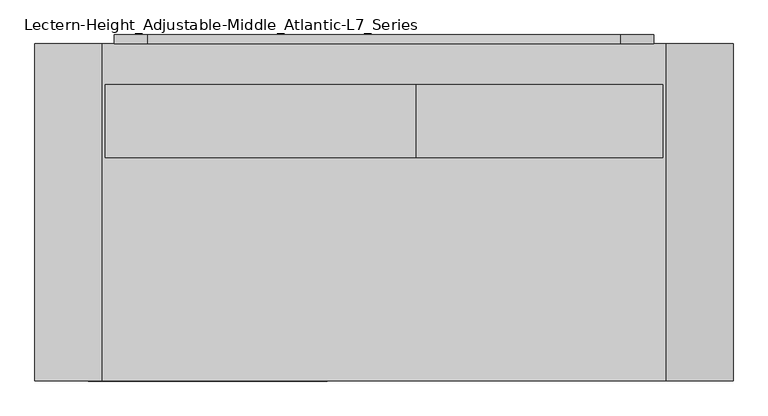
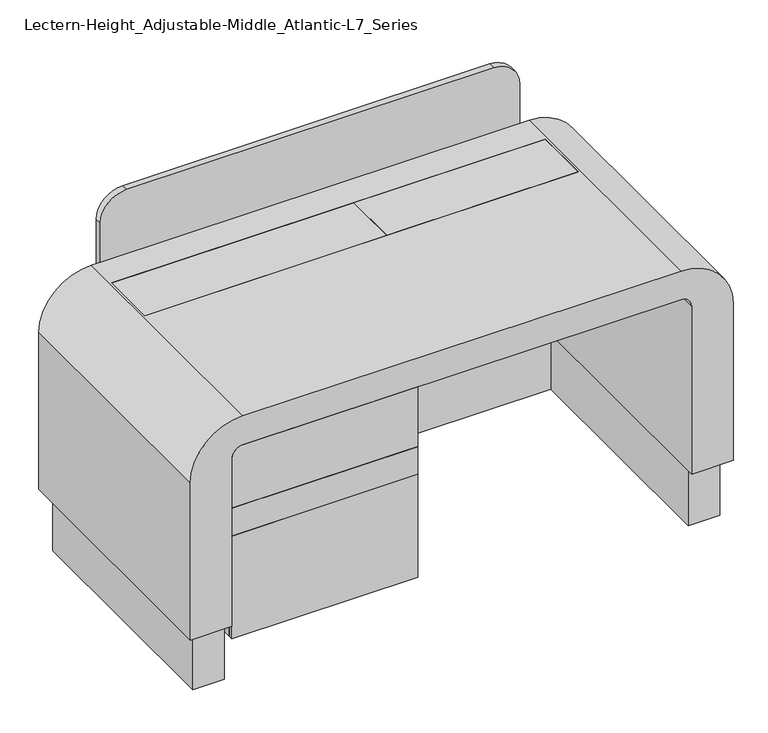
"""IFC4 building model written with IfcOpenShell, lengths in millimetres: electric appliance geometry, Lectern-Height_Adjustable-Middle_Atlantic-L7_Series : Glamour Cherry."""

from ifc_helpers import new_model, si_unit, point, frame, frame_2d, origin, origin_with_axes, place, context, project, spatial, polyline, circle_curve, trimmed, segment, composite_curve, outline, extrude, source, transform, mapped, element, save
from ifc_brep_helpers import plane_surface, cylinder_surface, revolved_surface, advanced_brep


def lectern_height_adjustable_middle_atlantic_l7_series_09f4e8fb(model_context):
    return source(origin(), model_context, "Body", "SolidModel", [
        extrude(outline(composite_curve([segment(polyline([(725.17, 636.143), (725.17, -636.143)]), True, "CONTINUOUS"), segment(trimmed(circle_curve(frame_2d((693.42, -636.143)), 31.75), [point((725.17, -636.143))], [point((693.42, -667.893))], False, "CARTESIAN"), True, "CONTINUOUS"), segment(polyline([(693.42, -667.893), (177.8, -667.893), (177.8, 667.893), (693.42, 667.893)]), True, "CONTINUOUS"), segment(trimmed(circle_curve(frame_2d((693.42, 636.143)), 31.75), [point((693.42, 667.893))], [point((725.17, 636.143))], False, "CARTESIAN"), True, "CONTINUOUS")], self_intersect=False)), frame((0.0, 341.122, 0.0), z_axis=(0.0, 1.0, 0.0), x_axis=(0.0, 0.0, 1.0)), (0.0, 0.0, 1.0), 30.48),
        advanced_brep(
        [(-667.893, -378.714, 693.42), (-667.893, -378.714, 139.954), (-128.143, -378.714, 139.954), (-128.143, -378.714, 725.17), (-636.143, -378.714, 725.17), (-140.843, -378.714, 152.654), (-655.193, -378.714, 152.654), (-655.193, -378.714, 693.42), (-636.143, -378.714, 712.47), (-140.843, -378.714, 712.47), (-667.893, 192.786, 693.42), (-636.143, 192.786, 725.17), (-128.143, 192.786, 725.17), (-128.143, 192.786, 139.954), (-667.893, 192.786, 139.954), (-667.893, 180.086, 693.42), (-667.893, 180.086, 139.954), (-128.143, 180.086, 139.954), (-128.143, 180.086, 725.17), (-636.143, 180.086, 725.17), (-140.843, 180.086, 152.654), (-655.193, 180.086, 152.654), (-655.193, 180.086, 693.42), (-636.143, 180.086, 712.47), (-140.843, 180.086, 712.47)],
        [
            (0, 1),
            (1, 2),
            (2, 3),
            (3, 4),
            (4, 0, circle_curve(frame((-636.143, -378.714, 693.42), z_axis=(0.0, -1.0, 0.0), x_axis=(1.0, 0.0, 0.0)), 31.75)),
            (5, 6),
            (6, 7),
            (7, 8, circle_curve(frame((-636.143, -378.714, 693.42), z_axis=(0.0, 1.0, 0.0), x_axis=(1.0, 0.0, 0.0)), 19.05)),
            (8, 9),
            (9, 5),
            (10, 11, circle_curve(frame((-636.143, 192.786, 693.42), z_axis=(0.0, 1.0, 0.0), x_axis=(1.0, 0.0, 0.0)), 31.75)),
            (11, 12),
            (12, 13),
            (13, 14),
            (14, 10),
            (0, 15),
            (15, 10),
            (14, 16),
            (16, 1),
            (13, 17),
            (17, 2),
            (12, 18),
            (18, 3),
            (11, 19),
            (19, 4),
            (5, 20),
            (20, 21),
            (21, 6),
            (21, 22),
            (22, 7),
            (22, 23, circle_curve(frame((-636.143, 180.086, 693.42), z_axis=(0.0, 1.0, 0.0), x_axis=(1.0, 0.0, 0.0)), 19.05)),
            (23, 8),
            (23, 24),
            (24, 9),
            (24, 20),
        ],
        [
            plane_surface(frame((-667.893, -378.714, 177.8), z_axis=(0.0, -1.0, 0.0), x_axis=(0.0, 0.0, -1.0))),
            plane_surface(frame((-667.893, 192.786, 177.8), z_axis=(0.0, 1.0, 0.0), x_axis=(0.0, 0.0, 1.0))),
            plane_surface(frame((-667.893, -378.714, 693.42), z_axis=(-1.0, 0.0, 0.0), x_axis=(0.0, 1.0, 0.0))),
            plane_surface(frame((-667.893, -378.714, 139.954), z_axis=(0.0, 0.0, -1.0), x_axis=(0.0, 1.0, 0.0))),
            plane_surface(frame((-128.143, -378.714, 139.954), z_axis=(1.0, 0.0, 0.0), x_axis=(0.0, 1.0, 0.0))),
            plane_surface(frame((-128.143, -378.714, 725.17), z_axis=(0.0, 0.0, 1.0), x_axis=(0.0, 1.0, 0.0))),
            cylinder_surface(frame((-636.143, 192.786, 693.42), z_axis=(0.0, -1.0, 0.0), x_axis=(1.0, 0.0, 0.0)), 31.75),
            plane_surface(frame((-140.843, -378.714, 152.654), z_axis=(0.0, 0.0, 1.0), x_axis=(0.0, 1.0, 0.0))),
            plane_surface(frame((-655.193, -378.714, 152.654), z_axis=(1.0, 0.0, 0.0), x_axis=(0.0, 1.0, 0.0))),
            revolved_surface(polyline([(-617.0930000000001, 180.086, 693.42), (-617.0930000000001, -378.714, 693.42)]), (-636.143, 0.0, 693.42), (0.0, 1.0, 0.0)),
            plane_surface(frame((-636.143, -378.714, 712.47), z_axis=(0.0, 0.0, -1.0), x_axis=(0.0, 1.0, 0.0))),
            plane_surface(frame((-140.843, -378.714, 712.47), z_axis=(-1.0, 0.0, 0.0), x_axis=(0.0, 1.0, 0.0))),
            plane_surface(frame((-667.893, 180.086, 177.8), z_axis=(0.0, -1.0, 0.0), x_axis=(0.0, 0.0, -1.0))),
        ],
        [
            (0, [[1, 2, 3, 4, 5], [6, 7, 8, 9, 10]]),
            (1, [[11, 12, 13, 14, 15]]),
            (2, [[-1, 16, 17, -15, 18, 19]]),
            (3, [[-2, -19, -18, -14, 20, 21]]),
            (4, [[-3, -21, -20, -13, 22, 23]]),
            (5, [[-4, -23, -22, -12, 24, 25]]),
            (6, [[-5, -25, -24, -11, -17, -16]]),
            (7, [[-6, 26, 27, 28]]),
            (8, [[-7, -28, 29, 30]]),
            (9, [[-8, -30, 31, 32]]),
            (10, [[-9, -32, 33, 34]]),
            (11, [[-10, -34, 35, -26]]),
            (12, [[-27, -35, -33, -31, -29]]),
        ],
    ),
        extrude(outline(polyline([(629.793, 279.146), (629.793, 114.046), (73.279, 114.046), (73.279, 279.146), (629.793, 279.146)])), frame((0.0, 0.0, 787.4), z_axis=(0.0, 0.0, 1.0), x_axis=(1.0, 0.0, 0.0)), (0.0, 0.0, 1.0), 25.4),
        advanced_brep(
        [(636.143, -391.414, 812.8), (-636.143, -391.414, 812.8), (-788.543, -391.414, 660.4), (-788.543, -391.414, 177.8), (-667.893, -391.414, 177.8), (-667.893, -391.414, 693.42), (-636.143, -391.414, 725.17), (636.143, -391.414, 725.17), (667.893, -391.414, 693.42), (667.893, -391.414, 177.8), (788.543, -391.414, 177.8), (788.543, -391.414, 660.4), (636.143, 371.602, 812.8), (788.543, 371.602, 660.4), (788.543, 371.602, 177.8), (667.893, 371.602, 177.8), (667.893, 371.602, 693.42), (636.143, 371.602, 725.17), (-636.143, 371.602, 725.17), (-667.893, 371.602, 693.42), (-667.893, 371.602, 177.8), (-788.543, 371.602, 177.8), (-788.543, 371.602, 660.4), (-636.143, 371.602, 812.8), (-629.793, 279.146, 812.8), (629.793, 279.146, 812.8), (629.793, 114.046, 812.8), (-629.793, 114.046, 812.8), (629.793, 279.146, 787.4), (-629.793, 279.146, 787.4), (-629.793, 114.046, 787.4), (629.793, 114.046, 787.4)],
        [
            (0, 1),
            (1, 2, circle_curve(frame((-636.143, -391.414, 660.4), z_axis=(0.0, -1.0, 0.0), x_axis=(1.0, 0.0, 0.0)), 152.4)),
            (2, 3),
            (3, 4),
            (4, 5),
            (5, 6, circle_curve(frame((-636.143, -391.414, 693.42), z_axis=(0.0, 1.0, 0.0), x_axis=(1.0, 0.0, 0.0)), 31.75)),
            (6, 7),
            (7, 8, circle_curve(frame((636.143, -391.414, 693.42), z_axis=(0.0, 1.0, 0.0), x_axis=(1.0, 0.0, 0.0)), 31.75)),
            (8, 9),
            (9, 10),
            (10, 11),
            (11, 0, circle_curve(frame((636.143, -391.414, 660.4), z_axis=(0.0, -1.0, 0.0), x_axis=(1.0, 0.0, 0.0)), 152.4)),
            (12, 13, circle_curve(frame((636.143, 371.602, 660.4), z_axis=(0.0, 1.0, 0.0), x_axis=(1.0, 0.0, 0.0)), 152.4)),
            (13, 14),
            (14, 15),
            (15, 16),
            (16, 17, circle_curve(frame((636.143, 371.602, 693.42), z_axis=(0.0, -1.0, 0.0), x_axis=(1.0, 0.0, 0.0)), 31.75)),
            (17, 18),
            (18, 19, circle_curve(frame((-636.143, 371.602, 693.42), z_axis=(0.0, -1.0, 0.0), x_axis=(1.0, 0.0, 0.0)), 31.75)),
            (19, 20),
            (20, 21),
            (21, 22),
            (22, 23, circle_curve(frame((-636.143, 371.602, 660.4), z_axis=(0.0, 1.0, 0.0), x_axis=(1.0, 0.0, 0.0)), 152.4)),
            (23, 12),
            (0, 12),
            (23, 1),
            (24, 25),
            (25, 26),
            (26, 27),
            (27, 24),
            (22, 2),
            (21, 3),
            (20, 4),
            (19, 5),
            (18, 6),
            (17, 7),
            (16, 8),
            (15, 9),
            (14, 10),
            (13, 11),
            (28, 29),
            (29, 30),
            (30, 31),
            (31, 28),
            (28, 25),
            (24, 29),
            (27, 30),
            (26, 31),
        ],
        [
            plane_surface(frame((-788.543, -391.414, 812.8), z_axis=(0.0, -1.0, 0.0), x_axis=(-1.0, 0.0, 0.0))),
            plane_surface(frame((-788.543, 371.602, 812.8), z_axis=(0.0, 1.0, 0.0), x_axis=(1.0, 0.0, 0.0))),
            plane_surface(frame((636.143, -391.414, 812.8), z_axis=(0.0, 0.0, 1.0), x_axis=(0.0, 1.0, 0.0))),
            cylinder_surface(frame((-636.143, 371.602, 660.4), z_axis=(0.0, -1.0, 0.0), x_axis=(1.0, 0.0, 0.0)), 152.4),
            plane_surface(frame((-788.543, -391.414, 660.4), z_axis=(-1.0, 0.0, 0.0), x_axis=(0.0, 1.0, 0.0))),
            plane_surface(frame((-788.543, -391.414, 177.8), z_axis=(0.0, 0.0, -1.0), x_axis=(0.0, 1.0, 0.0))),
            plane_surface(frame((-667.893, -391.414, 177.8), z_axis=(1.0, 0.0, 0.0), x_axis=(0.0, 1.0, 0.0))),
            revolved_surface(polyline([(-604.393, 371.602, 693.42), (-604.393, -391.414, 693.42)]), (-636.143, 371.602, 693.42), (0.0, 1.0, 0.0)),
            plane_surface(frame((-636.143, -391.414, 725.17), z_axis=(0.0, 0.0, -1.0), x_axis=(0.0, 1.0, 0.0))),
            revolved_surface(polyline([(667.893, 371.602, 693.42), (667.893, -391.414, 693.42)]), (636.143, 371.602, 693.42), (0.0, 1.0, 0.0)),
            plane_surface(frame((667.893, -391.414, 693.42), z_axis=(-1.0, 0.0, 0.0), x_axis=(0.0, 1.0, 0.0))),
            plane_surface(frame((667.893, -391.414, 177.8), z_axis=(0.0, 0.0, -1.0), x_axis=(0.0, 1.0, 0.0))),
            plane_surface(frame((788.543, -391.414, 177.8), z_axis=(1.0, 0.0, 0.0), x_axis=(0.0, 1.0, 0.0))),
            cylinder_surface(frame((636.143, 371.602, 660.4), z_axis=(0.0, -1.0, 0.0), x_axis=(1.0, 0.0, 0.0)), 152.4),
            plane_surface(frame((-629.793, 279.146, 787.4), z_axis=(0.0, 0.0, 1.0), x_axis=(1.0, 0.0, 0.0))),
            plane_surface(frame((629.793, 279.146, 812.8), z_axis=(0.0, -1.0, 0.0), x_axis=(0.0, 0.0, -1.0))),
            plane_surface(frame((-629.793, 279.146, 812.8), z_axis=(1.0, 0.0, 0.0), x_axis=(0.0, 0.0, -1.0))),
            plane_surface(frame((-629.793, 114.046, 812.8), z_axis=(0.0, 1.0, 0.0), x_axis=(0.0, 0.0, -1.0))),
            plane_surface(frame((629.793, 114.046, 812.8), z_axis=(-1.0, 0.0, 0.0), x_axis=(0.0, 0.0, -1.0))),
        ],
        [
            (0, [[1, 2, 3, 4, 5, 6, 7, 8, 9, 10, 11, 12]]),
            (1, [[13, 14, 15, 16, 17, 18, 19, 20, 21, 22, 23, 24]]),
            (2, [[-1, 25, -24, 26], [27, 28, 29, 30]]),
            (3, [[-2, -26, -23, 31]]),
            (4, [[-3, -31, -22, 32]]),
            (5, [[-4, -32, -21, 33]]),
            (6, [[-5, -33, -20, 34]]),
            (7, [[-6, -34, -19, 35]]),
            (8, [[-7, -35, -18, 36]]),
            (9, [[-8, -36, -17, 37]]),
            (10, [[-9, -37, -16, 38]]),
            (11, [[-10, -38, -15, 39]]),
            (12, [[-11, -39, -14, 40]]),
            (13, [[-12, -40, -13, -25]]),
            (14, [[41, 42, 43, 44]]),
            (15, [[-41, 45, -27, 46]]),
            (16, [[-42, -46, -30, 47]]),
            (17, [[-43, -47, -29, 48]]),
            (18, [[-44, -48, -28, -45]]),
        ],
    ),
        extrude(outline(polyline([(73.279, 279.146), (73.279, 114.046), (-629.793, 114.046), (-629.793, 279.146), (73.279, 279.146)])), frame((0.0, 0.0, 787.4), z_axis=(0.0, 0.0, 1.0), x_axis=(1.0, 0.0, 0.0)), (0.0, 0.0, 1.0), 25.4),
        extrude(outline(polyline([(-173.228, -351.536), (-173.228, -353.314), (-622.808, -353.314), (-622.808, -351.536), (-173.228, -351.536)])), frame((0.0, 0.0, 152.654), z_axis=(0.0, 0.0, 1.0), x_axis=(1.0, 0.0, 0.0)), (0.0, 0.0, 1.0), 279.4),
        extrude(outline(polyline([(-622.808, -351.536), (-622.808, -353.314), (-649.605, -353.314), (-649.605, -351.536), (-622.808, -351.536)])), frame((0.0, 0.0, 152.654), z_axis=(0.0, 0.0, 1.0), x_axis=(1.0, 0.0, 0.0)), (0.0, 0.0, 1.0), 279.4),
        extrude(outline(polyline([(-146.431, -351.536), (-146.431, -353.314), (-173.228, -353.314), (-173.228, -351.536), (-146.431, -351.536)])), frame((0.0, 0.0, 152.654), z_axis=(0.0, 0.0, 1.0), x_axis=(1.0, 0.0, 0.0)), (0.0, 0.0, 1.0), 279.4),
        extrude(outline(polyline([(-128.143, -391.414), (-667.893, -391.414), (-667.893, -378.714), (-128.143, -378.714), (-128.143, -391.414)])), frame((0.0, 0.0, 139.954), z_axis=(0.0, 0.0, 1.0), x_axis=(1.0, 0.0, 0.0)), (0.0, 0.0, 1.0), 315.214),
        extrude(outline(polyline([(-128.143, -391.414), (-667.893, -391.414), (-667.893, -378.714), (-128.143, -378.714), (-128.143, -391.414)])), frame((0.0, 0.0, 455.168), z_axis=(0.0, 0.0, 1.0), x_axis=(1.0, 0.0, 0.0)), (0.0, 0.0, 1.0), 85.852),
        extrude(outline(composite_curve([segment(polyline([(693.42, -667.893), (541.02, -667.893), (541.02, -128.143), (725.17, -128.143), (725.17, -636.143)]), True, "CONTINUOUS"), segment(trimmed(circle_curve(frame_2d((693.42, -636.143)), 31.75), [point((725.17, -636.143))], [point((693.42, -667.893))], False, "CARTESIAN"), True, "CONTINUOUS")], self_intersect=False)), frame((0.0, -391.414, 0.0), z_axis=(0.0, 1.0, 0.0), x_axis=(0.0, 0.0, 1.0)), (0.0, 0.0, 1.0), 12.7),
        extrude(outline(composite_curve([segment(polyline([(177.8, -674.243), (0.0, -674.243), (0.0, 674.243), (177.8, 674.243), (177.8, 667.893), (693.42, 667.893)]), True, "CONTINUOUS"), segment(trimmed(circle_curve(frame_2d((693.42, 636.143)), 31.75), [point((693.42, 667.893))], [point((725.17, 636.143))], False, "CARTESIAN"), True, "CONTINUOUS"), segment(polyline([(725.17, 636.143), (725.17, -636.143)]), True, "CONTINUOUS"), segment(trimmed(circle_curve(frame_2d((693.42, -636.143)), 31.75), [point((725.17, -636.143))], [point((693.42, -667.893))], False, "CARTESIAN"), True, "CONTINUOUS"), segment(polyline([(693.42, -667.893), (177.8, -667.893), (177.8, -674.243)]), True, "CONTINUOUS")], self_intersect=False)), frame((0.0, 328.422, 0.0), z_axis=(0.0, 1.0, 0.0), x_axis=(0.0, 0.0, 1.0)), (0.0, 0.0, 1.0), 12.7),
        extrude(outline(polyline([(-674.243, 341.122), (-674.243, -363.474), (-765.2258, -363.474), (-765.2258, 341.122), (-674.243, 341.122)])), origin_with_axes(), (0.0, 0.0, 1.0), 177.8),
        extrude(outline(polyline([(674.243, 341.122), (765.2258, 341.122), (765.2258, -363.474), (674.243, -363.474), (674.243, 341.122)])), origin_with_axes(), (0.0, 0.0, 1.0), 177.8),
        extrude(outline(composite_curve([segment(polyline([(1010.158, 533.4), (1010.158, -533.4)]), True, "CONTINUOUS"), segment(trimmed(circle_curve(frame_2d((933.958, -533.4)), 76.2), [point((1010.158, -533.4))], [point((933.958, -609.6))], False, "CARTESIAN"), True, "CONTINUOUS"), segment(polyline([(933.958, -609.6), (755.142, -609.6)]), True, "CONTINUOUS"), segment(trimmed(circle_curve(frame_2d((755.142, -533.4)), 76.2), [point((755.142, -609.6))], [point((678.942, -533.4))], False, "CARTESIAN"), True, "CONTINUOUS"), segment(polyline([(678.942, -533.4), (678.942, 533.4)]), True, "CONTINUOUS"), segment(trimmed(circle_curve(frame_2d((755.142, 533.4)), 76.2), [point((678.942, 533.4))], [point((755.142, 609.6))], False, "CARTESIAN"), True, "CONTINUOUS"), segment(polyline([(755.142, 609.6), (933.958, 609.6)]), True, "CONTINUOUS"), segment(trimmed(circle_curve(frame_2d((933.958, 533.4)), 76.2), [point((933.958, 609.6))], [point((1010.158, 533.4))], False, "CARTESIAN"), True, "CONTINUOUS")], self_intersect=False)), frame((0.0, 371.602, 0.0), z_axis=(0.0, 1.0, 0.0), x_axis=(0.0, 0.0, 1.0)), (0.0, 0.0, 1.0), 19.812),
    ])


if __name__ == "__main__":
    model = new_model("IFC4")
    model_context = context("Model", 3, world=origin())
    ifc_project = project(units=[si_unit("LENGTHUNIT", "METRE", prefix="MILLI")], contexts=[model_context])
    site = spatial("IfcSite", under=ifc_project)
    building = spatial("IfcBuilding", under=site)
    placement = place(None, origin())
    lectern_height_adjustable_middle_atlantic_l7_series_shape = lectern_height_adjustable_middle_atlantic_l7_series_09f4e8fb(model_context)
    element("IfcElectricAppliance", 1, ObjectType="Lectern-Height_Adjustable-Middle_Atlantic-L7_Series : Glamour Cherry", at=placement, inside=building, context=model_context, shape_type="MappedRepresentation", body=[
        mapped(lectern_height_adjustable_middle_atlantic_l7_series_shape, transform((0.0, 0.0, 0.0), x_axis=(1.0, 0.0, 0.0), y_axis=(0.0, 1.0, 0.0), z_axis=(0.0, 0.0, 1.0))),
    ])
    save(model, "model.ifc")
